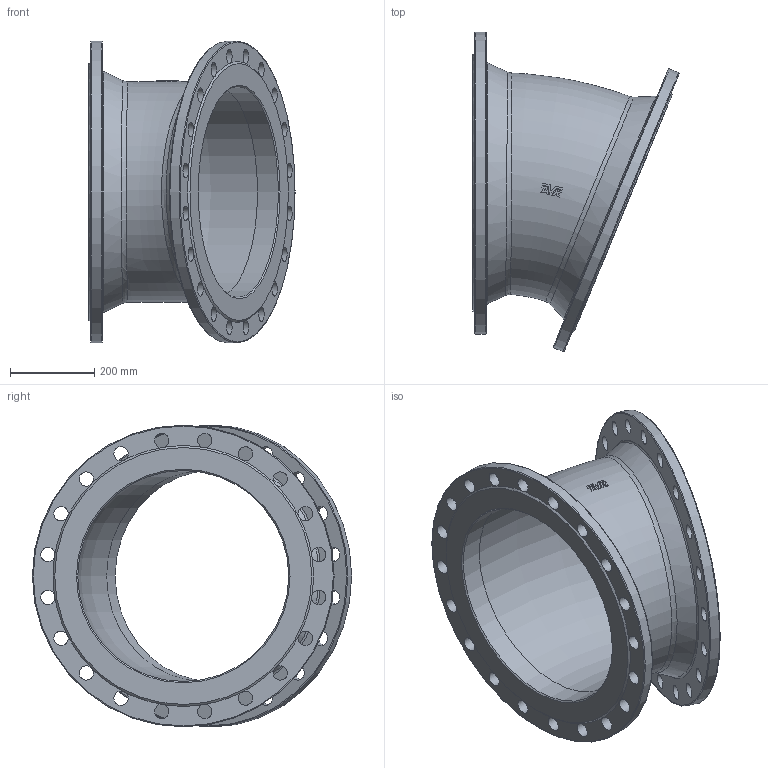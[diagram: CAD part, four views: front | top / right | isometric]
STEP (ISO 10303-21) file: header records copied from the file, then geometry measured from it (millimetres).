
FILE_DESCRIPTION (( 'STEP AP203' ), '1' );
FILE_NAME ('O_712_0210_DN500_1X_REV01.step', '2024-08-15T12:30:12', ( '' ), ( '' ), 'SwSTEP 2.0', 'SolidWorks 2022', '' );
FILE_SCHEMA (( 'CONFIG_CONTROL_DESIGN' ));
Length unit declared in the file: millimetre
Products named in the file (1): O_712_0210_DN500_1X_REV01
Bounding box: 488.42 x 756.44 x 715 mm (x, y, z)
Volume: 19197571.7 mm3; surface area: 1958185.4 mm2
Topology: 1 solids, 1 shells, 107 faces, 402 edges, 265 vertices
Faces by surface type: cylinder 46, plane 41, torus 12, cone 6, bspline 2
Full cylindrical faces by diameter (mm): 34 x40, 500 x2, 715 x2
Entity records: 6143 total; most frequent: CARTESIAN_POINT 3206, ORIENTED_EDGE 590, DIRECTION 529, EDGE_CURVE 295, AXIS2_PLACEMENT_3D 246, VERTEX_POINT 218, EDGE_LOOP 217, FACE_OUTER_BOUND 161
